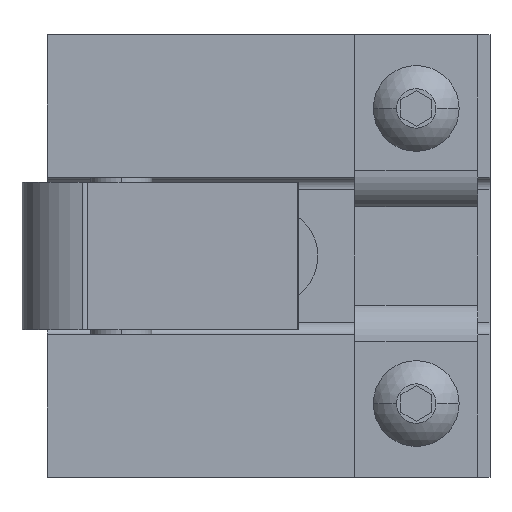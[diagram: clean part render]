
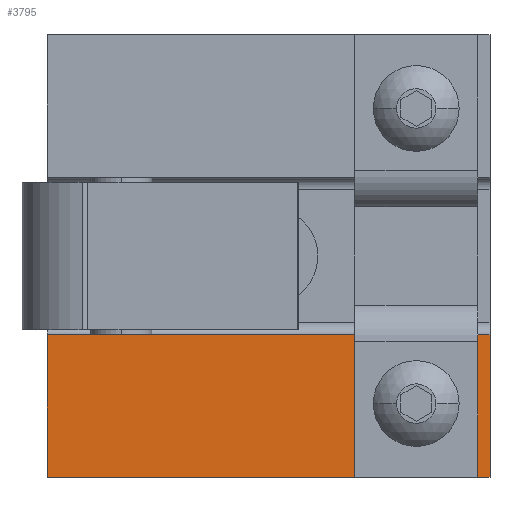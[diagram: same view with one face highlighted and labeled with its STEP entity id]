
A CAD part, left-side view. The second image highlights one B-rep face of the part: STEP entity #3795.
In plain terms, the highlighted planar face has unit normal (-1, 0, 0).
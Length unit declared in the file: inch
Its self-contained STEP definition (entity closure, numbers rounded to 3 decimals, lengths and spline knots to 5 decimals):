
#3795 = ADVANCED_FACE ( 'NONE', ( #11166, #11011 ), #10974, .T. ) ;
#3798 = EDGE_LOOP ( 'NONE', ( #3800, #3802 ) ) ;
#3800 = ORIENTED_EDGE ( 'NONE', *, *, #3801, .F. ) ;
#3801 = EDGE_CURVE ( 'NONE', #9743, #9740, #11077, .T. ) ;
#3802 = ORIENTED_EDGE ( 'NONE', *, *, #9742, .F. ) ;
#3805 = EDGE_LOOP ( 'NONE', ( #3808, #3811, #3812, #3819 ) ) ;
#3808 = ORIENTED_EDGE ( 'NONE', *, *, #3809, .F. ) ;
#3809 = EDGE_CURVE ( 'NONE', #9873, #3810, #10975, .T. ) ;
#3810 = VERTEX_POINT ( 'NONE', #11047 ) ;
#3811 = ORIENTED_EDGE ( 'NONE', *, *, #10039, .F. ) ;
#3812 = ORIENTED_EDGE ( 'NONE', *, *, #3817, .T. ) ;
#3814 = VERTEX_POINT ( 'NONE', #11048 ) ;
#3817 = EDGE_CURVE ( 'NONE', #9843, #3814, #11021, .T. ) ;
#3819 = ORIENTED_EDGE ( 'NONE', *, *, #3821, .T. ) ;
#3821 = EDGE_CURVE ( 'NONE', #3814, #3810, #11022, .T. ) ;
#9740 = VERTEX_POINT ( 'NONE', #18964 ) ;
#9742 = EDGE_CURVE ( 'NONE', #9740, #9743, #18963, .T. ) ;
#9743 = VERTEX_POINT ( 'NONE', #18958 ) ;
#9843 = VERTEX_POINT ( 'NONE', #19114 ) ;
#9873 = VERTEX_POINT ( 'NONE', #19249 ) ;
#10039 = EDGE_CURVE ( 'NONE', #9843, #9873, #19870, .T. ) ;
#10974 = PLANE ( 'NONE',  #11010 ) ;
#10975 = LINE ( 'NONE', #11051, #11050 ) ;
#10976 = DIRECTION ( 'NONE',  ( 0., 0., 1. ) ) ;
#10977 = DIRECTION ( 'NONE',  ( -1., 0., 0. ) ) ;
#10978 = CARTESIAN_POINT ( 'NONE',  ( 7.43951, 4.12904, -1.875 ) ) ;
#11010 = AXIS2_PLACEMENT_3D ( 'NONE', #11044, #11078, #11079 ) ;
#11011 = FACE_OUTER_BOUND ( 'NONE', #3805, .T. ) ;
#11018 = DIRECTION ( 'NONE',  ( 0., -1., 0. ) ) ;
#11019 = VECTOR ( 'NONE', #11018, 39.37008 ) ;
#11020 = CARTESIAN_POINT ( 'NONE',  ( 7.43951, 3.75404, -2.25 ) ) ;
#11021 = LINE ( 'NONE', #11020, #11019 ) ;
#11022 = LINE ( 'NONE', #11126, #11125 ) ;
#11044 = CARTESIAN_POINT ( 'NONE',  ( 7.43951, 3.75404, -2.25 ) ) ;
#11047 = CARTESIAN_POINT ( 'NONE',  ( 7.43951, 3.75404, -1.525 ) ) ;
#11048 = CARTESIAN_POINT ( 'NONE',  ( 7.43951, 3.75404, -2.25 ) ) ;
#11049 = DIRECTION ( 'NONE',  ( 0., -1., 0. ) ) ;
#11050 = VECTOR ( 'NONE', #11049, 39.37008 ) ;
#11051 = CARTESIAN_POINT ( 'NONE',  ( 7.43951, 3.75404, -1.525 ) ) ;
#11076 = AXIS2_PLACEMENT_3D ( 'NONE', #10978, #10977, #10976 ) ;
#11077 = CIRCLE ( 'NONE', #11076, 0.125 ) ;
#11078 = DIRECTION ( 'NONE',  ( -1., 0., 0. ) ) ;
#11079 = DIRECTION ( 'NONE',  ( 0., 0., 1. ) ) ;
#11124 = DIRECTION ( 'NONE',  ( 0., 0., 1. ) ) ;
#11125 = VECTOR ( 'NONE', #11124, 39.37008 ) ;
#11126 = CARTESIAN_POINT ( 'NONE',  ( 7.43951, 3.75404, -2.25 ) ) ;
#11166 = FACE_BOUND ( 'NONE', #3798, .T. ) ;
#18958 = CARTESIAN_POINT ( 'NONE',  ( 7.43951, 4.12904, -1.75 ) ) ;
#18959 = DIRECTION ( 'NONE',  ( 0., 0., 1. ) ) ;
#18960 = DIRECTION ( 'NONE',  ( -1., 0., 0. ) ) ;
#18961 = CARTESIAN_POINT ( 'NONE',  ( 7.43951, 4.12904, -1.875 ) ) ;
#18962 = AXIS2_PLACEMENT_3D ( 'NONE', #18961, #18960, #18959 ) ;
#18963 = CIRCLE ( 'NONE', #18962, 0.125 ) ;
#18964 = CARTESIAN_POINT ( 'NONE',  ( 7.43951, 4.12904, -2. ) ) ;
#19114 = CARTESIAN_POINT ( 'NONE',  ( 7.43951, 6.00404, -2.25 ) ) ;
#19249 = CARTESIAN_POINT ( 'NONE',  ( 7.43951, 6.00404, -1.525 ) ) ;
#19870 = LINE ( 'NONE', #19960, #19959 ) ;
#19958 = DIRECTION ( 'NONE',  ( 0., 0., 1. ) ) ;
#19959 = VECTOR ( 'NONE', #19958, 39.37008 ) ;
#19960 = CARTESIAN_POINT ( 'NONE',  ( 7.43951, 6.00404, -2.25 ) ) ;
